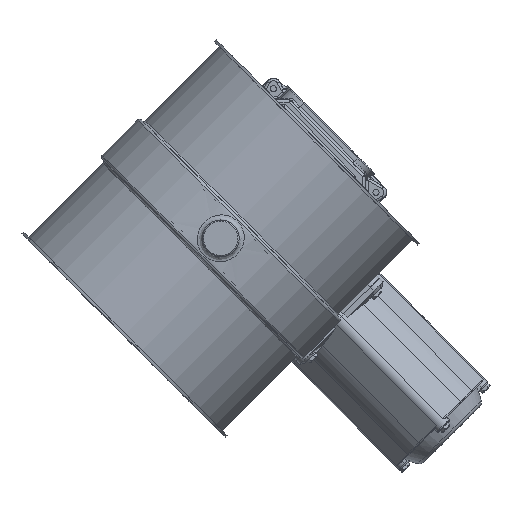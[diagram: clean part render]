
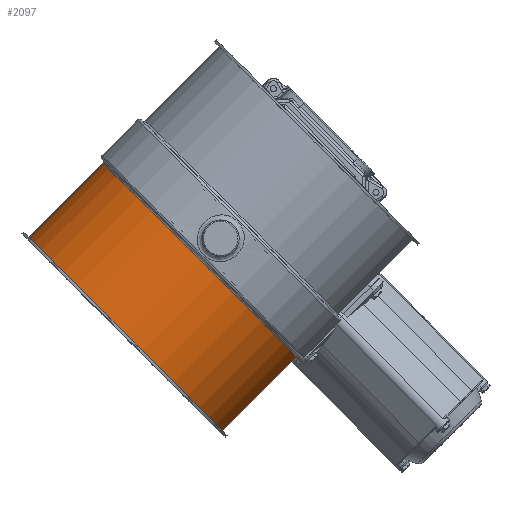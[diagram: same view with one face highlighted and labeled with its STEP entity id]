
A CAD part, top view. The second image highlights one B-rep face of the part: STEP entity #2097.
In plain terms, the highlighted cylindrical face has radius 111.5 mm (diameter 223 mm), a full revolution.
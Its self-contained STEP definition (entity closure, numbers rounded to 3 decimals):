
#1810=CARTESIAN_POINT('',(0.0,2.041,0.));
#1811=VERTEX_POINT('',#1810);
#1812=CARTESIAN_POINT('',(-111.5,2.041,0.0));
#1813=DIRECTION('',(0.0,1.0,0.0));
#1814=DIRECTION('',(1.0,0.0,0.0));
#1815=AXIS2_PLACEMENT_3D('',#1812,#1813,#1814);
#1816=CIRCLE('',#1815,111.5);
#1817=EDGE_CURVE('',#1811,#1811,#1816,.T.);
#2071=CARTESIAN_POINT('',(0.,87.541,0.0));
#2072=VERTEX_POINT('',#2071);
#2073=CARTESIAN_POINT('',(-111.5,87.541,0.0));
#2074=DIRECTION('',(0.0,-1.0,0.0));
#2075=DIRECTION('',(1.0,0.0,0.0));
#2076=AXIS2_PLACEMENT_3D('',#2073,#2074,#2075);
#2077=CIRCLE('',#2076,111.5);
#2078=EDGE_CURVE('',#2072,#2072,#2077,.T.);
#2086=CARTESIAN_POINT('',(-111.5,43.791,0.0));
#2087=DIRECTION('',(0.0,-1.0,0.0));
#2088=DIRECTION('',(1.0,0.0,0.0));
#2089=AXIS2_PLACEMENT_3D('',#2086,#2087,#2088);
#2090=CYLINDRICAL_SURFACE('',#2089,111.5);
#2091=ORIENTED_EDGE('',*,*,#1817,.T.);
#2092=EDGE_LOOP('',(#2091));
#2093=FACE_OUTER_BOUND('',#2092,.T.);
#2094=ORIENTED_EDGE('',*,*,#2078,.T.);
#2095=EDGE_LOOP('',(#2094));
#2096=FACE_BOUND('',#2095,.T.);
#2097=ADVANCED_FACE('',(#2093,#2096),#2090,.T.);
